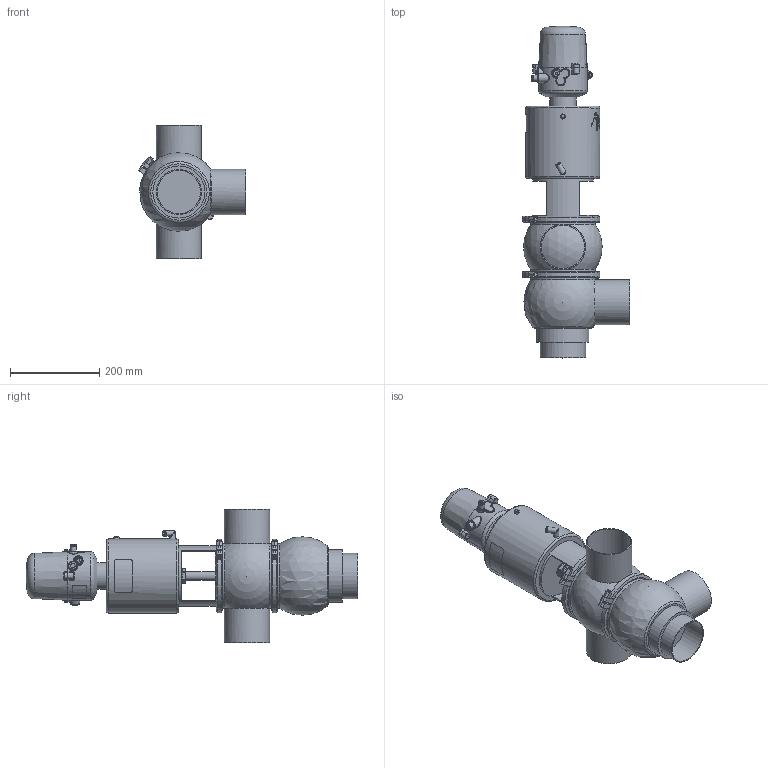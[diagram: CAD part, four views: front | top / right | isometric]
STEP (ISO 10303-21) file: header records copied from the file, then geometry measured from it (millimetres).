
FILE_DESCRIPTION (( 'STEP AP214' ), '1' );
FILE_NAME ('INNOVA K E W OD 4 T4 AS NC & C-TOP S_10.240.16.0076.STEP', '2024-08-06T09:19:32', ( '' ), ( '' ), 'SwSTEP 2.0', 'SolidWorks 2023', '' );
FILE_SCHEMA (( 'AUTOMOTIVE_DESIGN' ));
Length unit declared in the file: millimetre
Products named in the file (8): 10.240.15.0001_DN 100; 10.240.15.0014_T4 AS P0; 10.240.15.0002_OD 4"; 10.240.15.0017_Estàndard; 10.426.15.0001_C-TOP S - 1 EV; INNOVA K E W OD 4 T4 AS NC & C-TOP S_10.240.16.0076; 10.240.15.0010_DN 100; 10.240.15.0007_OD 4"
Assembly tree (8 placements, depth 2):
  INNOVA K E W OD 4 T4 AS NC & C-TOP S_10.240.16.0076
    10.240.15.0007_OD 4"
    10.240.15.0002_OD 4"
    10.240.15.0010_DN 100
    10.240.15.0014_T4 AS P0
    10.240.15.0017_Estàndard
    10.426.15.0001_C-TOP S - 1 EV
    10.240.15.0001_DN 100  x2
Bounding box: 241.26 x 744.5 x 300 mm (x, y, z)
Volume: 10802001.4 mm3; surface area: 766157.5 mm2
Topology: 8 solids, 8 shells, 1177 faces, 2853 edges, 1899 vertices
Faces by surface type: plane 411, cylinder 358, cone 201, bspline 160, torus 37, sphere 10
Full cylindrical faces by diameter (mm): 0.371 x17, 0.512 x16, 0.658 x16, 0.795 x16, 0.94 x15, 1.098 x15, 1.241 x13, 1.382 x13, 1.523 x11, 1.669 x10, 2.201 x1, 4 x2, 5.5 x2, 6 x2, 6.15 x1, 8 x6, 8.5 x1, 10 x1, 10.5 x1, 11 x2, 12.5 x3, 13 x2, 13.5 x2, 16 x1, 17 x3, 20 x3, 20.5 x1, 22 x2, 31 x1, 34.5 x3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
Entity records: 58218 total; most frequent: CARTESIAN_POINT 27904, ORIENTED_EDGE 4534, DIRECTION 3673, EDGE_CURVE 2267, VERTEX_POINT 1613, EDGE_LOOP 1576, AXIS2_PLACEMENT_3D 1508, FACE_OUTER_BOUND 1337
